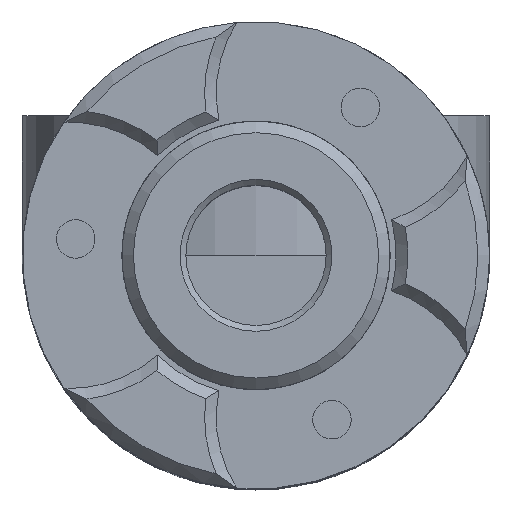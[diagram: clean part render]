
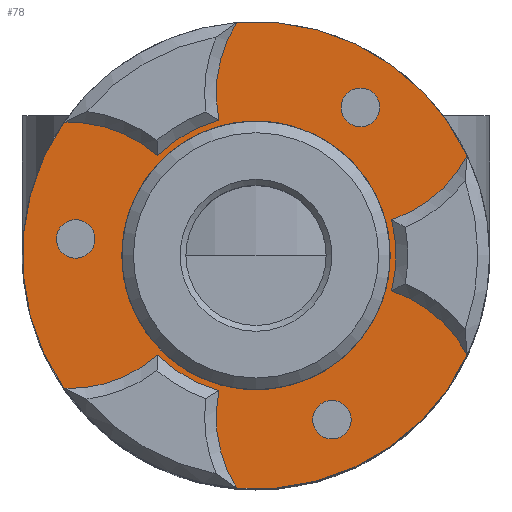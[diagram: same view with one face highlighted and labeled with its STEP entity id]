
A CAD part, top view. The second image highlights one B-rep face of the part: STEP entity #78.
In plain terms, the highlighted planar face has unit normal (0, 0, 1) as drawn and (0, -1, 0) by its records, which use the part's own axes.
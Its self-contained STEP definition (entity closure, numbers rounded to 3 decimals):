
#78 = ADVANCED_FACE( '', ( #151, #152, #153, #154, #155, #156, #157, #158 ), #159, .F. );
#151 = FACE_BOUND( '', #255, .T. );
#152 = FACE_BOUND( '', #256, .T. );
#153 = FACE_BOUND( '', #257, .T. );
#154 = FACE_BOUND( '', #258, .T. );
#155 = FACE_BOUND( '', #259, .T. );
#156 = FACE_BOUND( '', #260, .T. );
#157 = FACE_BOUND( '', #261, .T. );
#158 = FACE_OUTER_BOUND( '', #262, .T. );
#159 = PLANE( '', #263 );
#255 = EDGE_LOOP( '', ( #580 ) );
#256 = EDGE_LOOP( '', ( #581 ) );
#257 = EDGE_LOOP( '', ( #582 ) );
#258 = EDGE_LOOP( '', ( #583 ) );
#259 = EDGE_LOOP( '', ( #584 ) );
#260 = EDGE_LOOP( '', ( #585 ) );
#261 = EDGE_LOOP( '', ( #586 ) );
#262 = EDGE_LOOP( '', ( #587 ) );
#263 = AXIS2_PLACEMENT_3D( '', #588, #589, #590 );
#580 = ORIENTED_EDGE( '', *, *, #1141, .F. );
#581 = ORIENTED_EDGE( '', *, *, #1138, .F. );
#582 = ORIENTED_EDGE( '', *, *, #1143, .F. );
#583 = ORIENTED_EDGE( '', *, *, #1132, .F. );
#584 = ORIENTED_EDGE( '', *, *, #1144, .F. );
#585 = ORIENTED_EDGE( '', *, *, #1135, .F. );
#586 = ORIENTED_EDGE( '', *, *, #1145, .F. );
#587 = ORIENTED_EDGE( '', *, *, #1146, .T. );
#588 = CARTESIAN_POINT( '', ( 0., 0., 20. ) );
#589 = DIRECTION( '', ( 0., 1., 0. ) );
#590 = DIRECTION( '', ( 0., 0., 1. ) );
#1132 = EDGE_CURVE( '', #2004, #2004, #2005, .T. );
#1135 = EDGE_CURVE( '', #2009, #2009, #2010, .T. );
#1138 = EDGE_CURVE( '', #2014, #2014, #2015, .T. );
#1141 = EDGE_CURVE( '', #2019, #2019, #2020, .T. );
#1143 = EDGE_CURVE( '', #2022, #2022, #2023, .T. );
#1144 = EDGE_CURVE( '', #2024, #2024, #2025, .T. );
#1145 = EDGE_CURVE( '', #2026, #2026, #2027, .T. );
#1146 = EDGE_CURVE( '', #2028, #2028, #2029, .T. );
#2004 = VERTEX_POINT( '', #3527 );
#2005 = CIRCLE( '', #3528, 1.65 );
#2009 = VERTEX_POINT( '', #3532 );
#2010 = CIRCLE( '', #3533, 1.65 );
#2014 = VERTEX_POINT( '', #3537 );
#2015 = CIRCLE( '', #3538, 1.65 );
#2019 = VERTEX_POINT( '', #3542 );
#2020 = CIRCLE( '', #3543, 1.65 );
#2022 = VERTEX_POINT( '', #3545 );
#2023 = CIRCLE( '', #3546, 1.65 );
#2024 = VERTEX_POINT( '', #3547 );
#2025 = CIRCLE( '', #3548, 1.65 );
#2026 = VERTEX_POINT( '', #3549 );
#2027 = CIRCLE( '', #3550, 11.5 );
#2028 = VERTEX_POINT( '', #3551 );
#2029 = CIRCLE( '', #3552, 20. );
#3527 = CARTESIAN_POINT( '', ( 6.925, 0., 11.994 ) );
#3528 = AXIS2_PLACEMENT_3D( '', #4026, #4027, #4028 );
#3532 = CARTESIAN_POINT( '', ( -13.85, 0., 0. ) );
#3533 = AXIS2_PLACEMENT_3D( '', #4032, #4033, #4034 );
#3537 = CARTESIAN_POINT( '', ( 6.925, 0., -11.994 ) );
#3538 = AXIS2_PLACEMENT_3D( '', #4038, #4039, #4040 );
#3542 = CARTESIAN_POINT( '', ( -6.021, 0., -13.174 ) );
#3543 = AXIS2_PLACEMENT_3D( '', #4044, #4045, #4046 );
#3545 = CARTESIAN_POINT( '', ( 14.42, 0., 1.372 ) );
#3546 = AXIS2_PLACEMENT_3D( '', #4047, #4048, #4049 );
#3547 = CARTESIAN_POINT( '', ( -8.398, 0., 11.802 ) );
#3548 = AXIS2_PLACEMENT_3D( '', #4050, #4051, #4052 );
#3549 = CARTESIAN_POINT( '', ( 0., 0., -11.5 ) );
#3550 = AXIS2_PLACEMENT_3D( '', #4053, #4054, #4055 );
#3551 = CARTESIAN_POINT( '', ( 0., 0., -20. ) );
#3552 = AXIS2_PLACEMENT_3D( '', #4056, #4057, #4058 );
#4026 = CARTESIAN_POINT( '', ( 7.75, 0., 13.423 ) );
#4027 = DIRECTION( '', ( 0., -1., 0. ) );
#4028 = DIRECTION( '', ( -0.5, 0., -0.866 ) );
#4032 = CARTESIAN_POINT( '', ( -15.5, 0., 0. ) );
#4033 = DIRECTION( '', ( 0., -1., 0. ) );
#4034 = DIRECTION( '', ( 1., 0., 0. ) );
#4038 = CARTESIAN_POINT( '', ( 7.75, 0., -13.423 ) );
#4039 = DIRECTION( '', ( 0., -1., 0. ) );
#4040 = DIRECTION( '', ( -0.5, 0., 0.866 ) );
#4044 = CARTESIAN_POINT( '', ( -5.196, 0., -14.603 ) );
#4045 = DIRECTION( '', ( 0., -1., 0. ) );
#4046 = DIRECTION( '', ( -0.5, 0., 0.866 ) );
#4047 = CARTESIAN_POINT( '', ( 15.245, 0., 2.801 ) );
#4048 = DIRECTION( '', ( 0., -1., 0. ) );
#4049 = DIRECTION( '', ( -0.5, 0., -0.866 ) );
#4050 = CARTESIAN_POINT( '', ( -10.048, 0., 11.802 ) );
#4051 = DIRECTION( '', ( 0., -1., 0. ) );
#4052 = DIRECTION( '', ( 1., 0., 0. ) );
#4053 = CARTESIAN_POINT( '', ( 0., 0., 0. ) );
#4054 = DIRECTION( '', ( 0., -1., 0. ) );
#4055 = DIRECTION( '', ( 0., 0., -1. ) );
#4056 = CARTESIAN_POINT( '', ( 0., 0., 0. ) );
#4057 = DIRECTION( '', ( 0., -1., 0. ) );
#4058 = DIRECTION( '', ( 0., 0., -1. ) );
